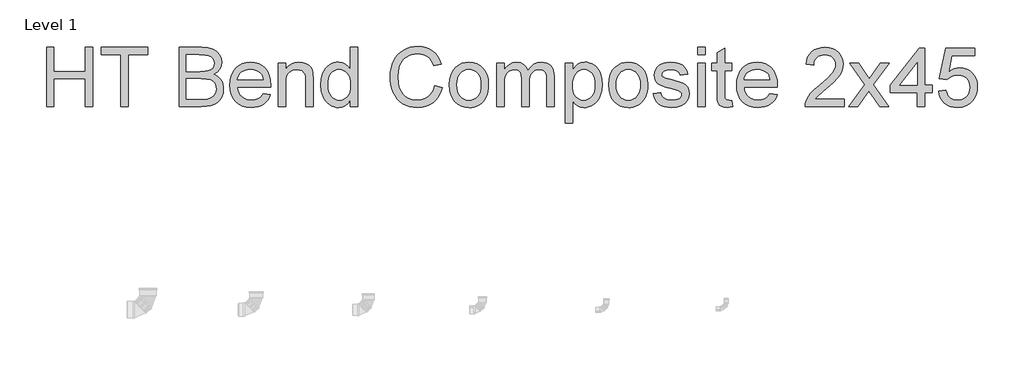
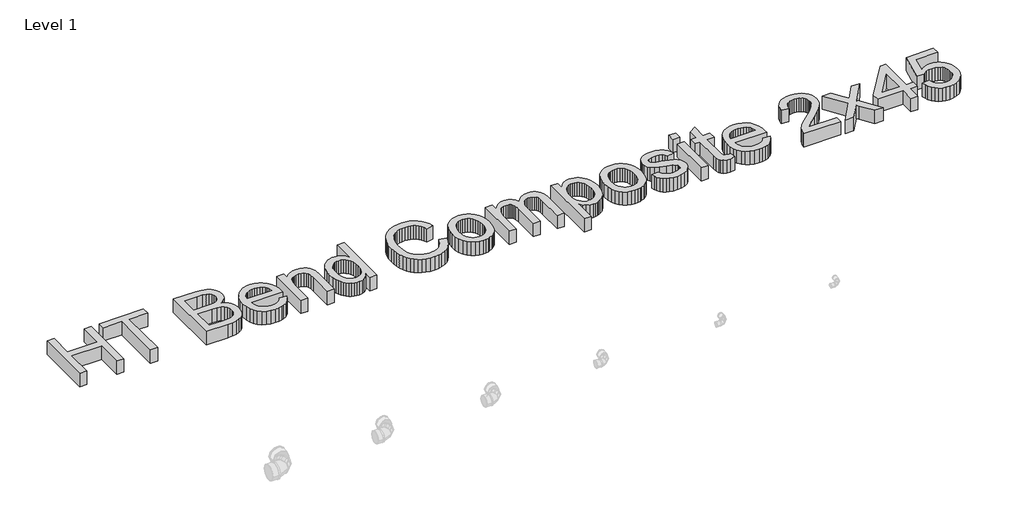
# One storey, part 5 of 29: 1 proxy.
"""IFC4 building model written with IfcOpenShell, lengths in millimetres."""

from ifc_helpers import new_model, si_unit, origin, origin_with_axes, place, context, project, spatial, polyline, outline, extrude, element, save

model = new_model("IFC4")

# Units and contexts
model_context = context("Model", 3, world=origin())
ifc_project = project(units=[si_unit("LENGTHUNIT", "METRE", prefix="MILLI")], contexts=[model_context])

# Site, building, storey
site = spatial("IfcSite", under=ifc_project)
building = spatial("IfcBuilding", under=site)
storey = spatial("IfcBuildingStorey", under=building, Name="Level 1", Elevation=0.0)

# Proxy
placement = place(None, origin())
element("IfcBuildingElementProxy", 1, Name="600mm Arial", ObjectType="600mm Arial", at=placement, inside=storey, context=model_context, shape_type="SweptSolid", body=[
    extrude(outline(polyline([(15131.5935673, -63434.1451034), (15131.5935673, -62831.4072425), (15206.9357999, -62831.4072425), (15206.9357999, -63076.2694985), (15527.1402885, -63076.2694985), (15527.1402885, -62831.4072425), (15602.4825211, -62831.4072425), (15602.4825211, -63434.1451034), (15527.1402885, -63434.1451034), (15527.1402885, -63151.6117312), (15206.9357999, -63151.6117312), (15206.9357999, -63434.1451034), (15131.5935673, -63434.1451034)])), origin_with_axes(), (0.0, 0.0, 1.0), 150.0),
    extrude(outline(polyline([(15885.0158934, -63434.1451034), (15885.0158934, -62906.7494752), (15687.2425328, -62906.7494752), (15687.2425328, -62831.4072425), (16158.1314866, -62831.4072425), (16158.1314866, -62906.7494752), (15960.358126, -62906.7494752), (15960.358126, -63434.1451034), (15885.0158934, -63434.1451034)])), origin_with_axes(), (0.0, 0.0, 1.0), 150.0),
    extrude(outline(polyline([(16478.3359752, -63434.1451034), (16478.3359752, -62831.4072425), (16708.3357986, -62831.4072425), (16771.5931077, -62835.8402206), (16820.9812655, -62849.1391547), (16841.0584254, -62859.1961288), (16858.8363228, -62871.6351387), (16874.3149578, -62886.4561846), (16887.4943302, -62903.6592664), (16905.5389421, -62941.3303827), (16911.5538127, -62980.7673326), (16906.4954353, -63017.0588914), (16891.320303, -63051.1799465), (16865.9180512, -63081.0335704), (16830.1783154, -63104.5228358), (16852.9180212, -63114.2165263), (16872.8710209, -63126.8164847), (16890.0373145, -63142.3227108), (16904.416902, -63160.7352046), (16915.7798571, -63181.4929462), (16923.8962537, -63204.0349155), (16928.7660916, -63228.3611124), (16930.3893709, -63254.471537), (16925.9563928, -63296.502055), (16912.6574587, -63335.4791523), (16892.8102251, -63368.6253201), (16868.7323485, -63393.1630492), (16839.2466066, -63410.9317496), (16803.1757769, -63423.7708312), (16759.3426372, -63431.5515354), (16706.569965, -63434.1451034), (16478.3359752, -63434.1451034)]), holes=[polyline([(16553.6782078, -63358.8028708), (16708.1886458, -63358.8028708), (16764.1067091, -63355.8598149), (16790.0607838, -63349.3299095), (16811.4163336, -63339.4522779), (16828.7803638, -63325.3072152), (16842.7598796, -63305.9750163), (16851.9753236, -63282.320204), (16855.0471383, -63255.207301), (16851.4418947, -63223.7166022), (16840.6261641, -63196.6404874), (16821.7354236, -63175.4688785), (16793.9051507, -63161.6916978), (16754.4865949, -63154.1317228), (16700.8310059, -63151.6117312), (16553.6782078, -63151.6117312), (16553.6782078, -63358.8028708)]), polyline([(16553.6782078, -63076.2694985), (16691.266074, -63076.2694985), (16739.385039, -63074.6508178), (16771.6115018, -63069.7947754), (16799.7360803, -63058.6295569), (16819.9511959, -63041.9093202), (16832.1464841, -63019.8915828), (16836.2115801, -62992.833862), (16832.4223956, -62966.5670876), (16821.0548419, -62943.6848275), (16802.623954, -62925.8241566), (16777.6447665, -62914.6221499), (16739.3114626, -62908.7176438), (16680.8182254, -62906.7494752), (16553.6782078, -62906.7494752), (16553.6782078, -63076.2694985)])]), origin_with_axes(), (0.0, 0.0, 1.0), 150.0),
    extrude(outline(polyline([(17334.4709544, -63302.2961964), (17408.341659, -63311.7139755), (17397.0154921, -63341.3008849), (17381.7253967, -63367.3745213), (17362.4713727, -63389.9348847), (17339.2534203, -63408.981975), (17312.3106627, -63424.111122), (17281.8822232, -63434.9176556), (17247.9681017, -63441.4015758), (17210.5682984, -63443.5628825), (17163.8196939, -63439.8334788), (17122.166255, -63428.6452676), (17085.6079817, -63409.998249), (17054.1448741, -63383.8924229), (17028.8437898, -63351.0543563), (17010.7715868, -63312.2106161), (16999.928265, -63267.3612024), (16996.3138244, -63216.5061151), (16999.9650532, -63163.9265809), (17010.9187396, -63117.5826466), (17029.1748836, -63077.4743121), (17054.7334852, -63043.6015774), (17086.1138194, -63016.6910094), (17121.8351612, -62997.4691752), (17161.8975104, -62985.9360746), (17206.3008673, -62982.0917078), (17249.2740828, -62985.9268776), (17288.1362171, -62997.432387), (17322.8872701, -63016.608236), (17353.5272417, -63043.4544246), (17378.5386189, -63077.2535829), (17396.4038883, -63117.288341), (17407.1230499, -63163.5586989), (17410.6961038, -63216.0646567), (17410.2546454, -63236.3717428), (17071.656057, -63236.3717428), (17076.0200572, -63266.4368989), (17084.6974738, -63292.7680527), (17097.6883067, -63315.3652043), (17114.9925561, -63334.2283536), (17135.6537286, -63349.0999832), (17158.7153312, -63359.7225758), (17184.1773638, -63366.0961314), (17212.0398264, -63368.2206499), (17252.1389639, -63364.2843126), (17285.910531, -63352.4753005), (17313.3545279, -63332.0578498), (17334.4709544, -63302.2961964)]), holes=[polyline([(17071.656057, -63161.0295102), (17335.3538712, -63161.0295102), (17325.1635399, -63121.2246783), (17316.3987514, -63105.5712995), (17305.1875476, -63092.7506119), (17284.6413381, -63077.2995681), (17261.2624373, -63066.2631083), (17235.0508452, -63059.6412324), (17206.0065617, -63057.4339404), (17179.5144595, -63059.1951754), (17155.2204522, -63064.4788806), (17133.1245399, -63073.2850559), (17113.2267225, -63085.6137012), (17096.5294784, -63100.8945996), (17084.0352862, -63118.5575339), (17075.7441457, -63138.6025041), (17071.656057, -63161.0295102)])]), origin_with_axes(), (0.0, 0.0, 1.0), 150.0),
    extrude(outline(polyline([(17486.0383364, -63434.1451034), (17486.0383364, -62991.5094868), (17561.380569, -62991.5094868), (17561.380569, -63053.313662), (17587.555373, -63022.154057), (17618.9908895, -62999.8971963), (17655.6871185, -62986.5430799), (17697.64406, -62982.0917078), (17734.7817474, -62985.6785572), (17768.7924379, -62996.4391056), (17797.1561397, -63013.0305836), (17817.3528613, -63034.1102219), (17831.0564656, -63059.6228383), (17839.9408158, -63089.5132504), (17843.9139413, -63162.3538854), (17843.9139413, -63434.1451034), (17768.5717087, -63434.1451034), (17768.5717087, -63172.5074285), (17766.4012049, -63133.5487252), (17759.8896936, -63105.847211), (17747.8783465, -63085.9999773), (17729.2083352, -63070.6041158), (17705.2776114, -63060.7264842), (17677.4841267, -63057.4339404), (17654.6064651, -63059.2825474), (17633.3566814, -63064.8283685), (17613.7347754, -63074.0714036), (17595.7407474, -63087.0116528), (17580.7081693, -63105.120644), (17569.9706136, -63129.8699052), (17563.5280802, -63161.2594365), (17561.380569, -63199.2892377), (17561.380569, -63434.1451034), (17486.0383364, -63434.1451034)])), origin_with_axes(), (0.0, 0.0, 1.0), 150.0),
    extrude(outline(polyline([(18220.6251044, -63434.1451034), (18220.6251044, -63363.070302), (18198.0831351, -63398.285806), (18170.777094, -63423.4397374), (18138.7069811, -63438.5320962), (18101.8727963, -63443.5628825), (18077.0039734, -63441.7418666), (18053.1652202, -63436.278819), (18030.3565365, -63427.1737396), (18008.5779223, -63414.4266285), (17988.5099595, -63398.4191632), (17970.8332296, -63379.5330213), (17955.5477327, -63357.7682027), (17942.6534688, -63333.1247076), (17932.4171523, -63306.0715853), (17925.1054976, -63277.0778856), (17919.2561739, -63213.2687535), (17924.6456451, -63150.2505678), (17940.8140588, -63093.3392231), (17952.9357706, -63067.9829566), (17967.7430209, -63045.7720811), (17985.2358097, -63026.7065967), (18005.4141372, -63010.7865034), (18027.5652318, -62998.2325303), (18050.9763223, -62989.2654067), (18075.6474086, -62983.8851325), (18101.5784907, -62982.0917078), (18138.4402666, -62987.2236616), (18171.0346114, -63002.6195231), (18198.6625493, -63026.2191531), (18220.6251044, -63055.9624124), (18220.6251044, -62831.4072425), (18295.967337, -62831.4072425), (18295.967337, -63434.1451034), (18220.6251044, -63434.1451034)]), holes=[polyline([(17994.5984065, -63212.9744479), (17996.722925, -63249.5097286), (18003.0964806, -63281.1245876), (18013.7190732, -63307.8190248), (18028.5907029, -63329.5930404), (18046.3502062, -63346.4926196), (18065.6364198, -63358.5637475), (18086.4493437, -63365.8064243), (18108.7889778, -63368.2206499), (18131.2343781, -63365.9167889), (18151.9231418, -63359.0052059), (18170.8552689, -63347.485901), (18188.0307596, -63331.358874), (18202.2907854, -63310.4953663), (18212.4765182, -63284.7666193), (18218.5879578, -63254.1726329), (18220.6251044, -63218.7134071), (18218.5511696, -63179.8374772), (18212.3293654, -63146.4981714), (18201.9596916, -63118.6954896), (18187.4421484, -63096.4294319), (18169.8895787, -63079.3689043), (18150.4148256, -63067.1828133), (18129.017889, -63059.8711586), (18105.6987691, -63057.4339404), (18082.9176765, -63059.7745896), (18062.1047526, -63066.7965372), (18043.2599974, -63078.4997831), (18026.3834109, -63094.8843275), (18012.4774715, -63116.3088552), (18002.5446576, -63143.1320512), (17996.5849693, -63175.3539154), (17994.5984065, -63212.9744479)])]), origin_with_axes(), (0.0, 0.0, 1.0), 150.0),
    extrude(outline(polyline([(19077.6430003, -63219.8906295), (19152.9852329, -63239.3147988), (19138.0768151, -63286.1691694), (19118.2203844, -63327.1098369), (19093.4159409, -63362.1368014), (19063.6634845, -63391.2500628), (19029.6344, -63414.1369214), (18992.0000719, -63430.4846776), (18950.7605002, -63440.2933313), (18905.915685, -63443.5628825), (18859.9718223, -63441.0888761), (18818.525317, -63433.6668569), (18781.5761691, -63421.2968248), (18749.1243786, -63403.9787798), (18720.7238886, -63381.9702395), (18695.9286421, -63355.5287211), (18674.7386392, -63324.6542246), (18657.1538798, -63289.3467501), (18643.3445094, -63251.1330079), (18633.4806735, -63211.5397082), (18627.5623719, -63170.566851), (18625.5896047, -63128.2144363), (18627.8198892, -63082.7718128), (18634.510743, -63040.3274276), (18645.662166, -63000.8812807), (18661.2741582, -62964.433372), (18680.9972317, -62931.5861084), (18704.4818985, -62902.9418965), (18731.7281588, -62878.5007365), (18762.7360125, -62858.2626282), (18796.4523973, -62842.3931186), (18831.8242512, -62831.0577547), (18868.851574, -62824.2565363), (18907.5343658, -62821.9894635), (18950.627143, -62824.9233224), (18990.1422678, -62833.7248991), (19026.0797402, -62848.3941937), (19058.4395602, -62868.9312061), (19086.6882989, -62894.7933103), (19110.2925274, -62925.4378805), (19129.2522457, -62960.8649167), (19143.5674539, -63001.0744187), (19068.2252213, -63019.0270601), (19056.3610269, -62989.3987639), (19042.1055996, -62964.0838841), (19025.4589393, -62943.0824207), (19006.4210461, -62926.3943737), (18984.8815552, -62913.6794522), (18960.7301023, -62904.5973655), (18933.9666871, -62899.1481134), (18904.5913098, -62897.3316961), (18870.7921515, -62899.34585), (18839.8808668, -62905.3883118), (18811.8574559, -62915.4590814), (18786.7219185, -62929.5581589), (18764.7915531, -62947.0509477), (18746.3836578, -62967.3028516), (18731.4982325, -62990.3138704), (18720.1352774, -63016.0840041), (18705.7326973, -63071.2295152), (18700.9318373, -63128.0672835), (18706.6156141, -63197.6705569), (18713.7203351, -63228.9405265), (18723.6669446, -63257.8560514), (18736.6163908, -63283.8423158), (18752.7296222, -63306.3245042), (18772.0066387, -63325.3026166), (18794.4474404, -63340.7766531), (18818.9621769, -63352.7834017), (18844.4609977, -63361.3596507), (18870.9439028, -63366.5054001), (18898.4108923, -63368.2206499), (18931.1661854, -63365.8845992), (18961.3003194, -63358.8764472), (18988.8132941, -63347.1961939), (19013.7051096, -63330.8438392), (19035.3871547, -63309.8929596), (19053.2708181, -63284.4171314), (19067.3561, -63254.4163547), (19077.6430003, -63219.8906295)])), origin_with_axes(), (0.0, 0.0, 1.0), 150.0),
    extrude(outline(polyline([(19228.3274656, -63212.8272951), (19232.4017586, -63155.5020832), (19244.6246379, -63106.1047283), (19264.9961034, -63064.6352304), (19293.5161551, -63031.0935895), (19322.2293448, -63009.6552663), (19353.9223787, -62994.3421782), (19388.5952568, -62985.1543254), (19426.247979, -62982.0917078), (19467.8140459, -62985.8211115), (19505.3977902, -62997.0093227), (19538.999212, -63015.6563413), (19568.6183111, -63041.7621674), (19592.7927567, -63074.4438841), (19610.0602178, -63112.8185748), (19620.4206945, -63156.8862393), (19623.8741868, -63206.6468776), (19622.3474765, -63246.9759413), (19617.7673456, -63282.7616624), (19610.1337942, -63314.0040409), (19599.4468223, -63340.7030767), (19585.839787, -63363.7646792), (19569.4460456, -63384.094758), (19550.2655981, -63401.6933129), (19528.2984444, -63416.5603441), (19504.3999103, -63428.3739546), (19479.4253214, -63436.8122479), (19453.3746776, -63441.8752239), (19426.247979, -63443.5628825), (19384.0749067, -63439.8472744), (19346.1416745, -63428.7004499), (19312.4482823, -63410.1224092), (19282.99473, -63384.1131521), (19259.0778018, -63351.1141371), (19241.9942817, -63311.5668227), (19231.7441696, -63265.4712087), (19228.3274656, -63212.8272951)]), holes=[polyline([(19303.6696982, -63212.6801423), (19305.849399, -63249.22462), (19312.3885014, -63280.8670702), (19323.2870056, -63307.6074927), (19338.5449113, -63329.4458876), (19357.104558, -63346.4098461), (19377.9082848, -63358.5269593), (19400.9560918, -63365.7972273), (19426.247979, -63368.2206499), (19451.4111074, -63365.7834317), (19474.3669439, -63358.471777), (19495.1154885, -63346.2856859), (19513.656741, -63329.2251584), (19528.9146468, -63307.1706328), (19539.8131509, -63280.0025475), (19546.3522533, -63247.7209024), (19548.5319542, -63210.3256976), (19546.3384578, -63174.9400482), (19539.7579686, -63144.1253325), (19528.7904866, -63117.8815507), (19513.4360118, -63096.2087027), (19494.8257814, -63079.2447442), (19474.0910324, -63067.127631), (19451.231765, -63059.857363), (19426.247979, -63057.4339404), (19400.9560918, -63059.848166), (19377.9082848, -63067.0908428), (19357.104558, -63079.1619707), (19338.5449113, -63096.0615499), (19323.2870056, -63117.8355655), (19312.3885014, -63144.5300027), (19305.849399, -63176.1448617), (19303.6696982, -63212.6801423)])]), origin_with_axes(), (0.0, 0.0, 1.0), 150.0),
    extrude(outline(polyline([(19708.6341985, -63434.1451034), (19708.6341985, -62991.5094868), (19783.9764311, -62991.5094868), (19783.9764311, -63064.3501219), (19806.637962, -63030.8912544), (19835.774216, -63004.6796623), (19870.3919117, -62987.7386964), (19909.4977678, -62982.0917078), (19951.3995271, -62987.849061), (19969.2326068, -62995.0457525), (19984.9871532, -63005.1211207), (20010.0767053, -63032.7674526), (20026.4842423, -63069.6476226), (20053.9466332, -63031.3419099), (20085.2717851, -63003.9806865), (20120.459698, -62987.5639525), (20159.5103717, -62982.0917078), (20189.6720968, -62984.3679776), (20216.1458049, -62991.1967872), (20238.931496, -63002.5781364), (20258.0291701, -63018.5120253), (20273.1261274, -63039.1823949), (20283.9096684, -63064.7731862), (20290.379793, -63095.2843992), (20292.5365012, -63130.7160338), (20292.5365012, -63434.1451034), (20217.1942686, -63434.1451034), (20217.1942686, -63163.0896494), (20215.4468291, -63125.5105036), (20210.2045107, -63100.1818282), (20200.3820614, -63082.8361922), (20184.8942294, -63069.2061642), (20164.9734194, -63060.3769963), (20141.852036, -63057.4339404), (20120.5010847, -63059.3193356), (20101.0355286, -63064.9755213), (20083.4553678, -63074.4024974), (20067.7606021, -63087.600264), (20054.8525426, -63104.9550971), (20045.6325001, -63126.8532729), (20040.1004746, -63153.2947913), (20038.2564661, -63184.2796523), (20038.2564661, -63434.1451034), (19962.9142335, -63434.1451034), (19962.9142335, -63154.7019399), (19958.5548319, -63112.1012049), (19953.1055798, -63095.3809682), (19945.4766269, -63081.7141521), (19935.3644706, -63071.0915595), (19922.4656082, -63063.5039933), (19906.7800396, -63058.9514536), (19888.3077649, -63057.4339404), (19859.2818755, -63061.4806423), (19832.5368544, -63073.6207482), (19810.4639347, -63093.5599523), (19795.4543493, -63121.0039492), (19786.8459106, -63159.0797357), (19783.9764311, -63210.9143088), (19783.9764311, -63434.1451034), (19708.6341985, -63434.1451034)])), origin_with_axes(), (0.0, 0.0, 1.0), 150.0),
    extrude(outline(polyline([(20405.5498501, -63603.6651268), (20405.5498501, -62991.5094868), (20480.8920827, -62991.5094868), (20480.8920827, -63065.3801915), (20505.4666, -63028.9414799), (20532.9841732, -63002.9138287), (20565.0634832, -62987.297238), (20603.3232107, -62982.0917078), (20629.5991822, -62983.9127236), (20654.2748671, -62989.3757713), (20677.3502652, -62998.4808507), (20698.8253767, -63011.2279618), (20718.2311519, -63027.2860109), (20735.0985414, -63046.3239041), (20749.4275451, -63068.3416415), (20761.2181631, -63093.3392231), (20777.0003006, -63148.8526162), (20782.2610132, -63209.4427808), (20776.319719, -63273.8773122), (20768.8931012, -63303.5423966), (20758.4958363, -63331.5060268), (20745.2704786, -63357.0370373), (20729.3595823, -63379.4042626), (20710.7631474, -63398.6077027), (20689.481174, -63414.6473577), (20666.5575272, -63427.2978998), (20643.0360721, -63436.3340013), (20618.9168088, -63441.7556622), (20594.1997372, -63443.5628825), (20559.5636474, -63438.7252343), (20528.6431657, -63424.2122896), (20502.1740562, -63402.3049168), (20480.8920827, -63375.2839842), (20480.8920827, -63603.6651268), (20405.5498501, -63603.6651268)]), holes=[polyline([(20480.8920827, -63216.3589623), (20482.9292293, -63252.6689152), (20489.0406689, -63283.9020966), (20499.2264017, -63310.0585065), (20513.4864275, -63331.1381448), (20530.6527211, -63347.3617408), (20549.5572571, -63358.9500236), (20570.2000356, -63365.9029933), (20592.5810565, -63368.2206499), (20615.2839741, -63365.8202199), (20636.3038316, -63358.6189298), (20655.640629, -63346.6167797), (20673.2943662, -63329.8137696), (20688.0050475, -63307.9707762), (20698.512677, -63280.8486761), (20704.8172547, -63248.4474693), (20706.9187806, -63210.767156), (20704.8678384, -63174.7699027), (20698.7150121, -63143.5919037), (20688.4603015, -63117.2331587), (20674.1037066, -63095.6936679), (20656.8960263, -63078.9550371), (20638.0880593, -63066.9988723), (20617.6798056, -63059.8251734), (20595.6712652, -63057.4339404), (20573.7317027, -63059.9769247), (20553.0889243, -63067.6058776), (20533.7429299, -63080.320799), (20515.6937195, -63098.1216891), (20500.4680034, -63120.7694244), (20489.5924919, -63148.0248817), (20483.067185, -63179.888061), (20480.8920827, -63216.3589623)])]), origin_with_axes(), (0.0, 0.0, 1.0), 150.0),
    extrude(outline(polyline([(20848.1854667, -63212.8272951), (20852.2597598, -63155.5020832), (20864.4826391, -63106.1047283), (20884.8541046, -63064.6352304), (20913.3741563, -63031.0935895), (20942.087346, -63009.6552663), (20973.7803799, -62994.3421782), (21008.4532579, -62985.1543254), (21046.1059801, -62982.0917078), (21087.672047, -62985.8211115), (21125.2557914, -62997.0093227), (21158.8572131, -63015.6563413), (21188.4763123, -63041.7621674), (21212.6507579, -63074.4438841), (21229.918219, -63112.8185748), (21240.2786957, -63156.8862393), (21243.7321879, -63206.6468776), (21242.2054776, -63246.9759413), (21237.6253468, -63282.7616624), (21229.9917954, -63314.0040409), (21219.3048234, -63340.7030767), (21205.6977882, -63363.7646792), (21189.3040467, -63384.094758), (21170.1235992, -63401.6933129), (21148.1564456, -63416.5603441), (21124.2579115, -63428.3739546), (21099.2833225, -63436.8122479), (21073.2326787, -63441.8752239), (21046.1059801, -63443.5628825), (21003.9329079, -63439.8472744), (20965.9996757, -63428.7004499), (20932.3062834, -63410.1224092), (20902.8527312, -63384.1131521), (20878.935803, -63351.1141371), (20861.8522828, -63311.5668227), (20851.6021707, -63265.4712087), (20848.1854667, -63212.8272951)]), holes=[polyline([(20923.5276993, -63212.6801423), (20925.7074001, -63249.22462), (20932.2465026, -63280.8670702), (20943.1450067, -63307.6074927), (20958.4029125, -63329.4458876), (20976.9625591, -63346.4098461), (20997.766286, -63358.5269593), (21020.814093, -63365.7972273), (21046.1059801, -63368.2206499), (21071.2691086, -63365.7834317), (21094.2249451, -63358.471777), (21114.9734896, -63346.2856859), (21133.5147422, -63329.2251584), (21148.7726479, -63307.1706328), (21159.671152, -63280.0025475), (21166.2102545, -63247.7209024), (21168.3899553, -63210.3256976), (21166.1964589, -63174.9400482), (21159.6159697, -63144.1253325), (21148.6484877, -63117.8815507), (21133.294013, -63096.2087027), (21114.6837825, -63079.2447442), (21093.9490336, -63067.127631), (21071.0897661, -63059.857363), (21046.1059801, -63057.4339404), (21020.814093, -63059.848166), (20997.766286, -63067.0908428), (20976.9625591, -63079.1619707), (20958.4029125, -63096.0615499), (20943.1450067, -63117.8355655), (20932.2465026, -63144.5300027), (20925.7074001, -63176.1448617), (20923.5276993, -63212.6801423)])]), origin_with_axes(), (0.0, 0.0, 1.0), 150.0),
    extrude(outline(polyline([(21300.2388624, -63302.2961964), (21375.581095, -63292.8784173), (21380.1336347, -63310.0585065), (21387.4636834, -63325.1048801), (21397.5712413, -63338.0175381), (21410.4563081, -63348.7964806), (21426.1556723, -63357.2945547), (21444.7061219, -63363.3646076), (21490.3602775, -63368.2206499), (21535.4626101, -63363.7692778), (21552.9921872, -63358.2050626), (21567.1740381, -63350.4151613), (21585.9360198, -63331.0645684), (21590.6265153, -63320.2304436), (21592.1900138, -63308.6237667), (21590.6173182, -63298.4518295), (21585.8992316, -63289.4203265), (21567.0268853, -63274.7786231), (21538.8103363, -63265.2136913), (21489.4773607, -63253.2943146), (21420.7202158, -63233.4102928), (21376.0225534, -63216.4325387), (21347.3093637, -63197.9096802), (21326.5056368, -63173.3903453), (21313.8688903, -63144.4380322), (21309.6566415, -63112.6162397), (21313.0411558, -63083.4248033), (21323.1946989, -63056.4774472), (21339.1975657, -63032.841029), (21360.1300512, -63013.5824066), (21380.933778, -63001.4606948), (21408.028287, -62991.2887577), (21439.3534389, -62984.3909702), (21472.8490945, -62982.0917078), (21521.8877645, -62985.7889218), (21564.5252877, -62996.880564), (21598.8118897, -63014.2813824), (21622.7977958, -63036.9061251), (21638.690298, -63066.4286552), (21648.6966882, -63104.5228358), (21573.3544556, -63113.9406148), (21563.844706, -63090.2306203), (21545.027542, -63072.3699494), (21516.7190224, -63061.1679426), (21478.7352064, -63057.4339404), (21435.4722838, -63061.0023957), (21406.6303354, -63071.7077618), (21390.4067394, -63087.1588056), (21384.9988741, -63104.9642942), (21387.2429542, -63116.552577), (21393.9751948, -63126.8900611), (21405.4899012, -63136.1238992), (21422.0813792, -63143.5183273), (21486.9757631, -63159.5579822), (21597.5610909, -63195.0218066), (21626.7709213, -63211.9811666), (21648.9174174, -63235.1945205), (21662.8785391, -63264.7354447), (21667.5322464, -63300.6775156), (21662.0691987, -63337.8335971), (21645.6800559, -63372.7823867), (21618.9902171, -63402.7831634), (21582.6250819, -63425.0952064), (21538.6999717, -63438.9459635), (21489.3302079, -63443.5628825), (21448.780415, -63441.3371965), (21413.3625759, -63434.6601382), (21383.0766907, -63423.5317079), (21357.9227592, -63407.9519054), (21337.3765498, -63387.9943072), (21320.9138305, -63363.7324896), (21308.5346014, -63335.1664526), (21300.2388624, -63302.2961964)])), origin_with_axes(), (0.0, 0.0, 1.0), 150.0),
    extrude(outline(polyline([(21752.2922581, -63434.1451034), (21752.2922581, -62991.5094868), (21827.6344907, -62991.5094868), (21827.6344907, -63434.1451034), (21752.2922581, -63434.1451034)])), origin_with_axes(), (0.0, 0.0, 1.0), 150.0),
    extrude(outline(polyline([(21752.2922581, -62906.7494752), (21752.2922581, -62831.4072425), (21827.6344907, -62831.4072425), (21827.6344907, -62906.7494752), (21752.2922581, -62906.7494752)])), origin_with_axes(), (0.0, 0.0, 1.0), 150.0),
    extrude(outline(polyline([(22100.7500839, -63371.3108587), (22110.167863, -63436.3523954), (22053.8083413, -63443.5628825), (22017.6455412, -63440.4358856), (21990.6797909, -63431.0548947), (21971.6235036, -63416.5971323), (21959.1890921, -63398.2398207), (21952.346487, -63366.7123337), (21950.0656187, -63312.744045), (21950.0656187, -63066.8517195), (21893.5589442, -63066.8517195), (21893.5589442, -62991.5094868), (21950.0656187, -62991.5094868), (21950.0656187, -62883.9407915), (22025.4078513, -62839.6477992), (22025.4078513, -62991.5094868), (22100.7500839, -62991.5094868), (22100.7500839, -63066.8517195), (22025.4078513, -63066.8517195), (22025.4078513, -63310.5367531), (22029.3809768, -63349.3850918), (22042.2568467, -63363.1438784), (22053.1277596, -63366.951457), (22067.9350099, -63368.2206499), (22100.7500839, -63371.3108587)])), origin_with_axes(), (0.0, 0.0, 1.0), 150.0),
    extrude(outline(polyline([(22485.9961092, -63302.2961964), (22559.8668139, -63311.7139755), (22548.5406469, -63341.3008849), (22533.2505515, -63367.3745213), (22513.9965276, -63389.9348847), (22490.7785752, -63408.981975), (22463.8358176, -63424.111122), (22433.407378, -63434.9176556), (22399.4932566, -63441.4015758), (22362.0934533, -63443.5628825), (22315.3448487, -63439.8334788), (22273.6914098, -63428.6452676), (22237.1331366, -63409.998249), (22205.6700289, -63383.8924229), (22180.3689447, -63351.0543563), (22162.2967417, -63312.2106161), (22151.4534199, -63267.3612024), (22147.8389793, -63216.5061151), (22151.4902081, -63163.9265809), (22162.4438945, -63117.5826466), (22180.7000385, -63077.4743121), (22206.2586401, -63043.6015774), (22237.6389743, -63016.6910094), (22273.360316, -62997.4691752), (22313.4226653, -62985.9360746), (22357.8260221, -62982.0917078), (22400.7992377, -62985.9268776), (22439.6613719, -62997.432387), (22474.4124249, -63016.608236), (22505.0523966, -63043.4544246), (22530.0637737, -63077.2535829), (22547.9290431, -63117.288341), (22558.6482048, -63163.5586989), (22562.2212586, -63216.0646567), (22561.7798002, -63236.3717428), (22223.1812119, -63236.3717428), (22227.5452121, -63266.4368989), (22236.2226286, -63292.7680527), (22249.2134616, -63315.3652043), (22266.5177109, -63334.2283536), (22287.1788835, -63349.0999832), (22310.240486, -63359.7225758), (22335.7025186, -63366.0961314), (22363.5649812, -63368.2206499), (22403.6641187, -63364.2843126), (22437.4356859, -63352.4753005), (22464.8796827, -63332.0578498), (22485.9961092, -63302.2961964)]), holes=[polyline([(22223.1812119, -63161.0295102), (22486.879026, -63161.0295102), (22476.6886948, -63121.2246783), (22467.9239062, -63105.5712995), (22456.7127024, -63092.7506119), (22436.166493, -63077.2995681), (22412.7875922, -63066.2631083), (22386.576, -63059.6412324), (22357.5317165, -63057.4339404), (22331.0396143, -63059.1951754), (22306.7456071, -63064.4788806), (22284.6496948, -63073.2850559), (22264.7518773, -63085.6137012), (22248.0546333, -63100.8945996), (22235.560441, -63118.5575339), (22227.2693006, -63138.6025041), (22223.1812119, -63161.0295102)])]), origin_with_axes(), (0.0, 0.0, 1.0), 150.0),
    extrude(outline(polyline([(23240.3013522, -63358.8028708), (23240.3013522, -63434.1451034), (22844.7546309, -63434.1451034), (22846.4100999, -63407.6208116), (22852.8480348, -63382.2001657), (22871.4260756, -63341.6043876), (22898.612555, -63302.22262), (22937.9391403, -63261.0014424), (22992.9374986, -63214.8874343), (23074.2394195, -63142.6721987), (23123.0205721, -63089.3660976), (23137.2484083, -63067.5874835), (23147.4111484, -63046.1031749), (23153.5087924, -63024.913172), (23155.5413405, -63004.0174747), (23153.6237556, -62984.3587806), (23147.8710009, -62966.2911761), (23138.2830764, -62949.8146612), (23124.8599821, -62934.929236), (23108.346679, -62922.6005906), (23089.4881282, -62913.7944154), (23068.2843297, -62908.5107102), (23044.7352835, -62906.7494752), (23019.9262415, -62908.4693235), (22997.7383586, -62913.6288685), (22978.171635, -62922.2281101), (22961.2260706, -62934.2670484), (22947.5178678, -62949.3410132), (22937.6632288, -62967.0453342), (22931.6621538, -62987.3800115), (22929.5146426, -63010.345045), (22854.17241, -63000.9272659), (22860.6517317, -62962.032942), (22872.4377511, -62928.0498427), (22889.5304683, -62898.977968), (22911.9298833, -62874.817318), (22939.1209612, -62855.82541), (22970.5886674, -62842.2597614), (23006.3330017, -62834.1203723), (23046.3539643, -62831.4072425), (23086.7336118, -62834.4238749), (23122.6710842, -62843.473772), (23154.1663815, -62858.5569338), (23181.2195037, -62879.6733603), (23202.9475341, -62905.2595531), (23218.4675557, -62933.7520136), (23227.7795687, -62965.1507419), (23230.8835731, -62999.4557379), (23227.5358469, -63035.4897794), (23217.4926685, -63070.8984214), (23199.6687858, -63106.9140687), (23172.978947, -63144.769126), (23130.4333943, -63189.9634291), (23065.0423696, -63247.9968139), (22978.3693716, -63320.4695669), (22944.3770752, -63358.8028708), (23240.3013522, -63358.8028708)])), origin_with_axes(), (0.0, 0.0, 1.0), 150.0),
    extrude(outline(polyline([(23287.3902475, -63434.1451034), (23448.3754086, -63211.6500728), (23296.8080266, -62991.5094868), (23387.4541502, -62991.5094868), (23460.5890909, -63097.4595015), (23494.72854, -63147.4914528), (23524.3062524, -63106.5829749), (23607.5947361, -62991.5094868), (23698.2408597, -62991.5094868), (23539.0215322, -63211.6500728), (23692.3547478, -63434.1451034), (23601.7086242, -63434.1451034), (23509.4438198, -63300.38321), (23492.521248, -63275.9558455), (23378.0363711, -63434.1451034), (23287.3902475, -63434.1451034)])), origin_with_axes(), (0.0, 0.0, 1.0), 150.0),
    extrude(outline(polyline([(23984.3058992, -63434.1451034), (23984.3058992, -63292.8784173), (23711.190306, -63292.8784173), (23711.190306, -63217.5361847), (24003.1414574, -62840.8250216), (24059.6481318, -62840.8250216), (24059.6481318, -63217.5361847), (24134.9903644, -63217.5361847), (24134.9903644, -63292.8784173), (24059.6481318, -63292.8784173), (24059.6481318, -63434.1451034), (23984.3058992, -63434.1451034)]), holes=[polyline([(23984.3058992, -63217.5361847), (23984.3058992, -62984.7404581), (23803.8965688, -63217.5361847), (23984.3058992, -63217.5361847)])]), origin_with_axes(), (0.0, 0.0, 1.0), 150.0),
    extrude(outline(polyline([(24200.914818, -63274.0428591), (24276.2570506, -63264.6250801), (24281.8856451, -63288.8455109), (24290.0894136, -63309.8561714), (24300.868356, -63327.6570614), (24314.2224725, -63342.2481811), (24330.1241717, -63353.6111362), (24348.5458626, -63361.7275327), (24369.4875452, -63366.5973706), (24392.9492194, -63368.2206499), (24421.6440151, -63365.9627742), (24446.9542963, -63359.1891469), (24468.8800632, -63347.8997682), (24487.4213158, -63332.094638), (24502.1641868, -63312.5555055), (24512.6948089, -63290.06412), (24519.0131821, -63264.6204815), (24521.1193066, -63236.22459), (24519.1465394, -63209.3875985), (24513.2282378, -63185.5304511), (24503.3644018, -63164.6531479), (24489.5550314, -63146.7556888), (24471.7541413, -63132.399094), (24449.9157464, -63122.1443833), (24424.0398466, -63115.991557), (24394.1264418, -63113.9406148), (24357.5773656, -63117.2147646), (24327.9812591, -63127.0372139), (24304.3448409, -63142.0835875), (24285.6748296, -63161.0295102), (24210.332597, -63151.6117312), (24276.2570506, -62840.8250216), (24568.2082019, -62840.8250216), (24568.2082019, -62916.1672542), (24337.178309, -62916.1672542), (24304.9518462, -63082.1556105), (24331.5405174, -63063.0993231), (24358.7729821, -63049.4876893), (24386.6492403, -63041.320709), (24415.1692919, -63038.5983822), (24451.8609224, -63041.9736995), (24485.5635117, -63052.0996515), (24516.2770598, -63068.976238), (24544.0015667, -63092.6034591), (24566.9528046, -63121.537378), (24583.346546, -63154.3340579), (24593.1827909, -63190.9934987), (24596.4615392, -63231.5157005), (24593.5092862, -63270.5479802), (24584.6525271, -63306.8579331), (24569.8912621, -63340.4455593), (24549.225491, -63371.3108587), (24517.9187332, -63402.9211191), (24481.3880511, -63425.4998766), (24439.6334446, -63439.047131), (24392.6549138, -63443.5628825), (24353.7743855, -63440.6612133), (24318.6554505, -63431.9562056), (24287.2981089, -63417.4478594), (24259.7023608, -63397.1361747), (24236.7419258, -63372.0328271), (24219.2905236, -63343.1494919), (24207.3481543, -63310.4861693), (24200.914818, -63274.0428591)])), origin_with_axes(), (0.0, 0.0, 1.0), 150.0),
])

save(model, "model.ifc")
